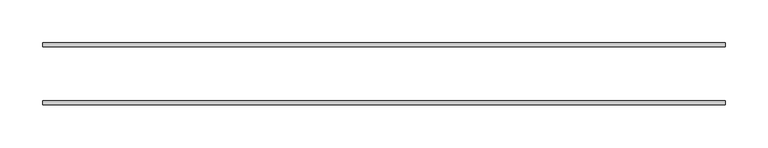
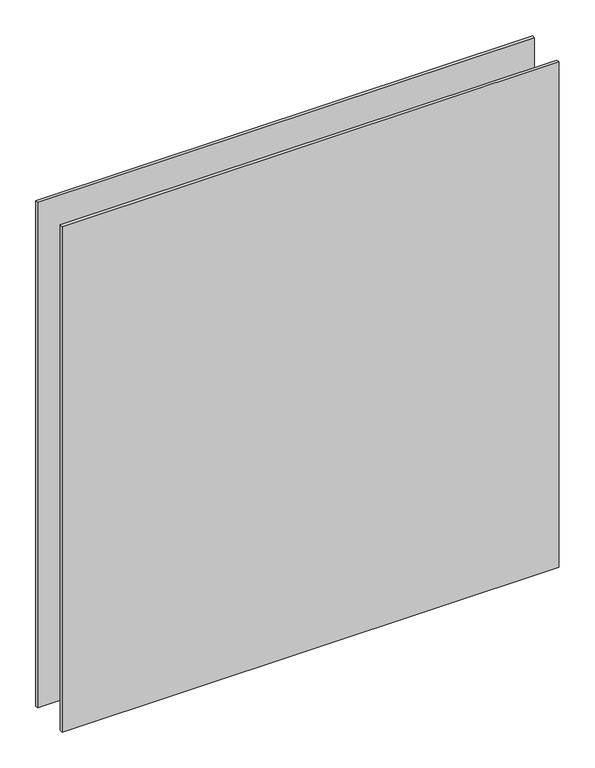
"""IFC4 building model written with IfcOpenShell, lengths in millimetres: plate geometry, VERTI PANORAMA - prosklená výplň : Prosklená výplň."""

from ifc_helpers import new_model, si_unit, origin, origin_with_axes, place, context, project, spatial, polyline, outline, extrude, source, transform, mapped, element, save


def plate_e60d4f31(model_context):
    return source(origin(), model_context, "Body", "SweptSolid", [
        extrude(outline(polyline([(400.0, 36.5), (400.0, 31.5), (-400.0, 31.5), (-400.0, 36.5), (400.0, 36.5)])), origin_with_axes(), (0.0, 0.0, 1.0), 860.0),
        extrude(outline(polyline([(400.0, -31.5), (400.0, -36.5), (-400.0, -36.5), (-400.0, -31.5), (400.0, -31.5)])), origin_with_axes(), (0.0, 0.0, 1.0), 860.0),
    ])


if __name__ == "__main__":
    model = new_model("IFC4")
    model_context = context("Model", 3, world=origin())
    ifc_project = project(units=[si_unit("LENGTHUNIT", "METRE", prefix="MILLI")], contexts=[model_context])
    site = spatial("IfcSite", under=ifc_project)
    building = spatial("IfcBuilding", under=site)
    placement = place(None, origin())
    plate_shape = plate_e60d4f31(model_context)
    element("IfcPlate", 1, ObjectType="VERTI PANORAMA - prosklená výplň : Prosklená výplň", at=placement, inside=building, context=model_context, shape_type="MappedRepresentation", body=[
        mapped(plate_shape, transform((0.0, 0.0, 0.0), x_axis=(1.0, 0.0, 0.0), y_axis=(0.0, 1.0, 0.0), z_axis=(0.0, 0.0, 1.0))),
    ])
    save(model, "model.ifc")
